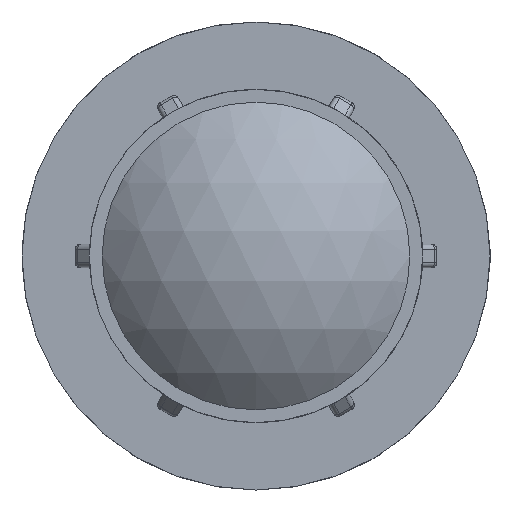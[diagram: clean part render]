
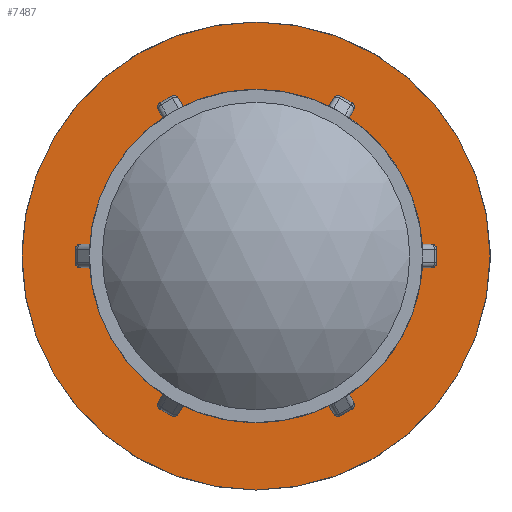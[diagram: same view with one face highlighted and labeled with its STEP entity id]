
A CAD part, left-side view. The second image highlights one B-rep face of the part: STEP entity #7487.
In plain terms, the highlighted planar face has unit normal (-1, 0, 0).
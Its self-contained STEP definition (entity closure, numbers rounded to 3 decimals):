
#23=FACE_BOUND('',#1402,.T.);
#105=ELLIPSE('',#7564,1.131,0.8);
#106=ELLIPSE('',#7585,1.131,0.8);
#109=ELLIPSE('',#7680,1.131,0.8);
#110=ELLIPSE('',#7701,1.131,0.8);
#113=ELLIPSE('',#7796,1.131,0.8);
#114=ELLIPSE('',#7817,1.131,0.8);
#117=ELLIPSE('',#7912,1.131,0.8);
#118=ELLIPSE('',#7933,1.131,0.8);
#121=ELLIPSE('',#8028,1.131,0.8);
#122=ELLIPSE('',#8049,1.131,0.8);
#126=ELLIPSE('',#8325,1.131,0.8);
#127=ELLIPSE('',#8346,1.131,0.8);
#279=PLANE('',#8402);
#931=FACE_OUTER_BOUND('',#1401,.T.);
#1401=EDGE_LOOP('',(#6788));
#1402=EDGE_LOOP('',(#6789,#6790,#6791,#6792,#6793,#6794,#6795,#6796,#6797,
#6798,#6799,#6800,#6801,#6802,#6803,#6804,#6805,#6806,#6807,#6808,#6809,
#6810,#6811,#6812));
#1449=LINE('',#11014,#1899);
#1508=LINE('',#11489,#1958);
#1567=LINE('',#11966,#2017);
#1626=LINE('',#12441,#2076);
#1685=LINE('',#12916,#2135);
#1834=LINE('',#14281,#2284);
#1899=VECTOR('',#8589,2.05);
#1958=VECTOR('',#8880,2.05);
#2017=VECTOR('',#9171,2.05);
#2076=VECTOR('',#9462,2.05);
#2135=VECTOR('',#9753,2.05);
#2284=VECTOR('',#10496,2.05);
#2711=CIRCLE('',#8216,26.01);
#2713=CIRCLE('',#8219,26.01);
#2715=CIRCLE('',#8222,26.01);
#2717=CIRCLE('',#8225,26.01);
#2719=CIRCLE('',#8228,26.01);
#2722=CIRCLE('',#8232,26.01);
#2812=CIRCLE('',#8403,36.5);
#2874=VERTEX_POINT('',#10994);
#2875=VERTEX_POINT('',#11006);
#2877=VERTEX_POINT('',#11012);
#2890=VERTEX_POINT('',#11069);
#2963=VERTEX_POINT('',#11469);
#2964=VERTEX_POINT('',#11481);
#2966=VERTEX_POINT('',#11487);
#2979=VERTEX_POINT('',#11544);
#3052=VERTEX_POINT('',#11946);
#3053=VERTEX_POINT('',#11958);
#3055=VERTEX_POINT('',#11964);
#3068=VERTEX_POINT('',#12021);
#3141=VERTEX_POINT('',#12421);
#3142=VERTEX_POINT('',#12433);
#3144=VERTEX_POINT('',#12439);
#3157=VERTEX_POINT('',#12496);
#3230=VERTEX_POINT('',#12896);
#3231=VERTEX_POINT('',#12908);
#3233=VERTEX_POINT('',#12914);
#3246=VERTEX_POINT('',#12971);
#3394=VERTEX_POINT('',#13939);
#3399=VERTEX_POINT('',#13976);
#3452=VERTEX_POINT('',#14273);
#3454=VERTEX_POINT('',#14279);
#3483=VERTEX_POINT('',#14452);
#3572=EDGE_CURVE('',#2875,#2874,#105,.F.);
#3575=EDGE_CURVE('',#2875,#2877,#1449,.T.);
#3600=EDGE_CURVE('',#2877,#2890,#106,.T.);
#3714=EDGE_CURVE('',#2964,#2963,#109,.F.);
#3717=EDGE_CURVE('',#2964,#2966,#1508,.T.);
#3742=EDGE_CURVE('',#2966,#2979,#110,.T.);
#3856=EDGE_CURVE('',#3053,#3052,#113,.F.);
#3859=EDGE_CURVE('',#3053,#3055,#1567,.T.);
#3884=EDGE_CURVE('',#3055,#3068,#114,.T.);
#3998=EDGE_CURVE('',#3142,#3141,#117,.F.);
#4001=EDGE_CURVE('',#3142,#3144,#1626,.T.);
#4026=EDGE_CURVE('',#3144,#3157,#118,.T.);
#4140=EDGE_CURVE('',#3231,#3230,#121,.F.);
#4143=EDGE_CURVE('',#3231,#3233,#1685,.T.);
#4168=EDGE_CURVE('',#3233,#3246,#122,.T.);
#4421=EDGE_CURVE('',#3394,#3230,#2711,.T.);
#4425=EDGE_CURVE('',#3246,#3141,#2713,.T.);
#4427=EDGE_CURVE('',#3157,#3052,#2715,.T.);
#4429=EDGE_CURVE('',#3068,#2963,#2717,.T.);
#4431=EDGE_CURVE('',#2979,#2874,#2719,.T.);
#4436=EDGE_CURVE('',#2890,#3399,#2722,.T.);
#4534=EDGE_CURVE('',#3452,#3399,#126,.F.);
#4537=EDGE_CURVE('',#3452,#3454,#1834,.T.);
#4561=EDGE_CURVE('',#3454,#3394,#127,.T.);
#4602=EDGE_CURVE('',#3483,#3483,#2812,.T.);
#6788=ORIENTED_EDGE('',*,*,#4602,.F.);
#6789=ORIENTED_EDGE('',*,*,#4436,.T.);
#6790=ORIENTED_EDGE('',*,*,#4534,.F.);
#6791=ORIENTED_EDGE('',*,*,#4537,.T.);
#6792=ORIENTED_EDGE('',*,*,#4561,.T.);
#6793=ORIENTED_EDGE('',*,*,#4421,.T.);
#6794=ORIENTED_EDGE('',*,*,#4140,.F.);
#6795=ORIENTED_EDGE('',*,*,#4143,.T.);
#6796=ORIENTED_EDGE('',*,*,#4168,.T.);
#6797=ORIENTED_EDGE('',*,*,#4425,.T.);
#6798=ORIENTED_EDGE('',*,*,#3998,.F.);
#6799=ORIENTED_EDGE('',*,*,#4001,.T.);
#6800=ORIENTED_EDGE('',*,*,#4026,.T.);
#6801=ORIENTED_EDGE('',*,*,#4427,.T.);
#6802=ORIENTED_EDGE('',*,*,#3856,.F.);
#6803=ORIENTED_EDGE('',*,*,#3859,.T.);
#6804=ORIENTED_EDGE('',*,*,#3884,.T.);
#6805=ORIENTED_EDGE('',*,*,#4429,.T.);
#6806=ORIENTED_EDGE('',*,*,#3714,.F.);
#6807=ORIENTED_EDGE('',*,*,#3717,.T.);
#6808=ORIENTED_EDGE('',*,*,#3742,.T.);
#6809=ORIENTED_EDGE('',*,*,#4431,.T.);
#6810=ORIENTED_EDGE('',*,*,#3572,.F.);
#6811=ORIENTED_EDGE('',*,*,#3575,.T.);
#6812=ORIENTED_EDGE('',*,*,#3600,.T.);
#7487=ADVANCED_FACE('',(#931,#23),#279,.T.);
#7564=AXIS2_PLACEMENT_3D('',#11008,#8583,#8584);
#7585=AXIS2_PLACEMENT_3D('',#11070,#8645,#8646);
#7680=AXIS2_PLACEMENT_3D('',#11483,#8874,#8875);
#7701=AXIS2_PLACEMENT_3D('',#11545,#8936,#8937);
#7796=AXIS2_PLACEMENT_3D('',#11960,#9165,#9166);
#7817=AXIS2_PLACEMENT_3D('',#12022,#9227,#9228);
#7912=AXIS2_PLACEMENT_3D('',#12435,#9456,#9457);
#7933=AXIS2_PLACEMENT_3D('',#12497,#9518,#9519);
#8028=AXIS2_PLACEMENT_3D('',#12910,#9747,#9748);
#8049=AXIS2_PLACEMENT_3D('',#12972,#9809,#9810);
#8216=AXIS2_PLACEMENT_3D('',#13940,#10236,#10237);
#8219=AXIS2_PLACEMENT_3D('',#13958,#10242,#10243);
#8222=AXIS2_PLACEMENT_3D('',#13961,#10248,#10249);
#8225=AXIS2_PLACEMENT_3D('',#13964,#10254,#10255);
#8228=AXIS2_PLACEMENT_3D('',#13967,#10260,#10261);
#8232=AXIS2_PLACEMENT_3D('',#13987,#10268,#10269);
#8325=AXIS2_PLACEMENT_3D('',#14275,#10490,#10491);
#8346=AXIS2_PLACEMENT_3D('',#14329,#10552,#10553);
#8402=AXIS2_PLACEMENT_3D('',#14451,#10677,#10678);
#8403=AXIS2_PLACEMENT_3D('',#14453,#10679,#10680);
#8583=DIRECTION('center_axis',(1.,0.,0.));
#8584=DIRECTION('ref_axis',(0.,0.5,-0.866));
#8589=DIRECTION('',(0.,0.866,0.5));
#8645=DIRECTION('center_axis',(1.,0.,0.));
#8646=DIRECTION('ref_axis',(0.,0.5,-0.866));
#8874=DIRECTION('center_axis',(1.,0.,0.));
#8875=DIRECTION('ref_axis',(0.,-0.5,-0.866));
#8880=DIRECTION('',(0.,0.866,-0.5));
#8936=DIRECTION('center_axis',(1.,0.,0.));
#8937=DIRECTION('ref_axis',(0.,-0.5,-0.866));
#9165=DIRECTION('center_axis',(1.,0.,0.));
#9166=DIRECTION('ref_axis',(0.,-1.,0.));
#9171=DIRECTION('',(0.,0.,-1.));
#9227=DIRECTION('center_axis',(1.,0.,0.));
#9228=DIRECTION('ref_axis',(0.,-1.,0.));
#9456=DIRECTION('center_axis',(1.,0.,0.));
#9457=DIRECTION('ref_axis',(0.,-0.5,0.866));
#9462=DIRECTION('',(0.,-0.866,-0.5));
#9518=DIRECTION('center_axis',(1.,0.,0.));
#9519=DIRECTION('ref_axis',(0.,-0.5,0.866));
#9747=DIRECTION('center_axis',(1.,0.,0.));
#9748=DIRECTION('ref_axis',(0.,0.5,0.866));
#9753=DIRECTION('',(0.,-0.866,0.5));
#9809=DIRECTION('center_axis',(1.,0.,0.));
#9810=DIRECTION('ref_axis',(0.,0.5,0.866));
#10236=DIRECTION('center_axis',(1.,0.,0.));
#10237=DIRECTION('ref_axis',(0.,0.,-1.));
#10242=DIRECTION('center_axis',(1.,0.,0.));
#10243=DIRECTION('ref_axis',(0.,0.,-1.));
#10248=DIRECTION('center_axis',(1.,0.,0.));
#10249=DIRECTION('ref_axis',(0.,0.,-1.));
#10254=DIRECTION('center_axis',(1.,0.,0.));
#10255=DIRECTION('ref_axis',(0.,0.,-1.));
#10260=DIRECTION('center_axis',(1.,0.,0.));
#10261=DIRECTION('ref_axis',(0.,0.,-1.));
#10268=DIRECTION('center_axis',(1.,0.,0.));
#10269=DIRECTION('ref_axis',(0.,0.,-1.));
#10490=DIRECTION('center_axis',(1.,0.,0.));
#10491=DIRECTION('ref_axis',(0.,1.,0.));
#10496=DIRECTION('',(0.,0.,1.));
#10552=DIRECTION('center_axis',(1.,0.,0.));
#10553=DIRECTION('ref_axis',(0.,1.,0.));
#10677=DIRECTION('center_axis',(-1.,0.,0.));
#10678=DIRECTION('ref_axis',(0.,0.,1.));
#10679=DIRECTION('center_axis',(1.,0.,0.));
#10680=DIRECTION('ref_axis',(0.,0.,-1.));
#10994=CARTESIAN_POINT('',(35.78,11.951,-23.102));
#11006=CARTESIAN_POINT('',(35.78,12.117,-23.038));
#11008=CARTESIAN_POINT('Origin',(35.78,11.552,-22.058));
#11012=CARTESIAN_POINT('',(35.78,13.893,-22.013));
#11014=CARTESIAN_POINT('',(35.78,26.693,-14.623));
#11069=CARTESIAN_POINT('',(35.78,14.031,-21.901));
#11070=CARTESIAN_POINT('Origin',(35.78,13.327,-21.033));
#11469=CARTESIAN_POINT('',(35.78,-14.031,-21.901));
#11481=CARTESIAN_POINT('',(35.78,-13.893,-22.013));
#11483=CARTESIAN_POINT('Origin',(35.78,-13.327,-21.033));
#11487=CARTESIAN_POINT('',(35.78,-12.117,-23.038));
#11489=CARTESIAN_POINT('',(35.78,0.682,-30.428));
#11544=CARTESIAN_POINT('',(35.78,-11.951,-23.102));
#11545=CARTESIAN_POINT('Origin',(35.78,-11.552,-22.058));
#11946=CARTESIAN_POINT('',(35.78,-25.982,1.201));
#11958=CARTESIAN_POINT('',(35.78,-26.01,1.025));
#11960=CARTESIAN_POINT('Origin',(35.78,-24.879,1.025));
#11964=CARTESIAN_POINT('',(35.78,-26.01,-1.025));
#11966=CARTESIAN_POINT('',(35.78,-26.01,0.));
#12021=CARTESIAN_POINT('',(35.78,-25.982,-1.201));
#12022=CARTESIAN_POINT('Origin',(35.78,-24.879,-1.025));
#12421=CARTESIAN_POINT('',(35.78,-11.951,23.102));
#12433=CARTESIAN_POINT('',(35.78,-12.117,23.038));
#12435=CARTESIAN_POINT('Origin',(35.78,-11.552,22.058));
#12439=CARTESIAN_POINT('',(35.78,-13.893,22.013));
#12441=CARTESIAN_POINT('',(35.78,0.683,30.428));
#12496=CARTESIAN_POINT('',(35.78,-14.031,21.901));
#12497=CARTESIAN_POINT('Origin',(35.78,-13.327,21.033));
#12896=CARTESIAN_POINT('',(35.78,14.031,21.901));
#12908=CARTESIAN_POINT('',(35.78,13.893,22.013));
#12910=CARTESIAN_POINT('Origin',(35.78,13.327,21.033));
#12914=CARTESIAN_POINT('',(35.78,12.117,23.038));
#12916=CARTESIAN_POINT('',(35.78,26.693,14.623));
#12971=CARTESIAN_POINT('',(35.78,11.951,23.102));
#12972=CARTESIAN_POINT('Origin',(35.78,11.552,22.058));
#13939=CARTESIAN_POINT('',(35.78,25.982,1.201));
#13940=CARTESIAN_POINT('Origin',(35.78,0.,0.));
#13958=CARTESIAN_POINT('Origin',(35.78,0.,0.));
#13961=CARTESIAN_POINT('Origin',(35.78,0.,0.));
#13964=CARTESIAN_POINT('Origin',(35.78,0.,0.));
#13967=CARTESIAN_POINT('Origin',(35.78,0.,0.));
#13976=CARTESIAN_POINT('',(35.78,25.982,-1.201));
#13987=CARTESIAN_POINT('Origin',(35.78,0.,0.));
#14273=CARTESIAN_POINT('',(35.78,26.01,-1.025));
#14275=CARTESIAN_POINT('Origin',(35.78,24.879,-1.025));
#14279=CARTESIAN_POINT('',(35.78,26.01,1.025));
#14281=CARTESIAN_POINT('',(35.78,26.01,0.));
#14329=CARTESIAN_POINT('Origin',(35.78,24.879,1.025));
#14451=CARTESIAN_POINT('Origin',(35.78,36.5,0.));
#14452=CARTESIAN_POINT('',(35.78,36.5,0.));
#14453=CARTESIAN_POINT('Origin',(35.78,0.,0.));
